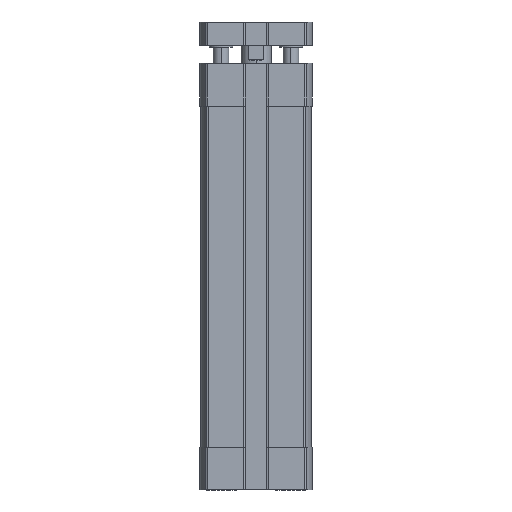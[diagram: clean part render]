
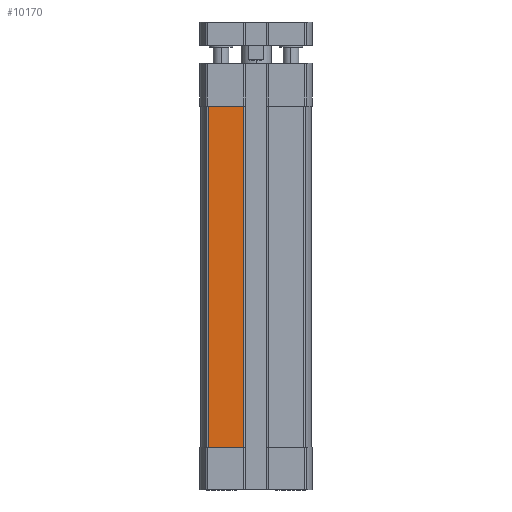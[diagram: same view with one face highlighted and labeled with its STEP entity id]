
A CAD part, front view. The second image highlights one B-rep face of the part: STEP entity #10170.
In plain terms, the highlighted planar face has unit normal (0, -1, 0) as drawn and (-1, 0, 0) by its records, which use the part's own axes.
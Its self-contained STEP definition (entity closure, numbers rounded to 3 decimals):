
#288 = AXIS2_PLACEMENT_3D ( 'NONE', #13867, #7233, #16541 ) ;
#793 = VECTOR ( 'NONE', #6079, 1000. ) ;
#918 = CARTESIAN_POINT ( 'NONE',  ( -14.25, 3.1, -99. ) ) ;
#1215 = EDGE_CURVE ( 'NONE', #16114, #5605, #12269, .T. ) ;
#1229 = DIRECTION ( 'NONE',  ( 0., 0., -1. ) ) ;
#2644 = CARTESIAN_POINT ( 'NONE',  ( -14.25, 12.347, -11. ) ) ;
#3012 = EDGE_CURVE ( 'NONE', #11076, #16114, #5297, .T. ) ;
#3194 = LINE ( 'NONE', #9637, #6732 ) ;
#3197 = PLANE ( 'NONE',  #288 ) ;
#3509 = LINE ( 'NONE', #4734, #793 ) ;
#3966 = CARTESIAN_POINT ( 'NONE',  ( -14.25, 3.1, -11. ) ) ;
#4150 = EDGE_LOOP ( 'NONE', ( #9467, #9663, #4240, #8180 ) ) ;
#4240 = ORIENTED_EDGE ( 'NONE', *, *, #3012, .T. ) ;
#4501 = CARTESIAN_POINT ( 'NONE',  ( -14.25, 12.347, -99. ) ) ;
#4734 = CARTESIAN_POINT ( 'NONE',  ( -14.25, 12.347, -99. ) ) ;
#5297 = LINE ( 'NONE', #12288, #11988 ) ;
#5605 = VERTEX_POINT ( 'NONE', #6855 ) ;
#6079 = DIRECTION ( 'NONE',  ( 0., -1., 0. ) ) ;
#6732 = VECTOR ( 'NONE', #16240, 1000. ) ;
#6847 = FACE_OUTER_BOUND ( 'NONE', #4150, .T. ) ;
#6855 = CARTESIAN_POINT ( 'NONE',  ( -14.25, 12.347, -99. ) ) ;
#6983 = DIRECTION ( 'NONE',  ( 0., 1., 0. ) ) ;
#7233 = DIRECTION ( 'NONE',  ( -1., 0., 0. ) ) ;
#8180 = ORIENTED_EDGE ( 'NONE', *, *, #1215, .T. ) ;
#8218 = VERTEX_POINT ( 'NONE', #918 ) ;
#9467 = ORIENTED_EDGE ( 'NONE', *, *, #11539, .T. ) ;
#9637 = CARTESIAN_POINT ( 'NONE',  ( -14.25, 3.1, -99. ) ) ;
#9663 = ORIENTED_EDGE ( 'NONE', *, *, #13289, .T. ) ;
#10170 = ADVANCED_FACE ( 'NONE', ( #6847 ), #3197, .T. ) ;
#11076 = VERTEX_POINT ( 'NONE', #3966 ) ;
#11539 = EDGE_CURVE ( 'NONE', #5605, #8218, #3509, .T. ) ;
#11988 = VECTOR ( 'NONE', #6983, 1000. ) ;
#12269 = LINE ( 'NONE', #4501, #14965 ) ;
#12288 = CARTESIAN_POINT ( 'NONE',  ( -14.25, 0., -11. ) ) ;
#13289 = EDGE_CURVE ( 'NONE', #8218, #11076, #3194, .T. ) ;
#13867 = CARTESIAN_POINT ( 'NONE',  ( -14.25, 12.347, -99. ) ) ;
#14965 = VECTOR ( 'NONE', #1229, 1000. ) ;
#16114 = VERTEX_POINT ( 'NONE', #2644 ) ;
#16240 = DIRECTION ( 'NONE',  ( 0., 0., 1. ) ) ;
#16541 = DIRECTION ( 'NONE',  ( 0., 0., 1. ) ) ;
